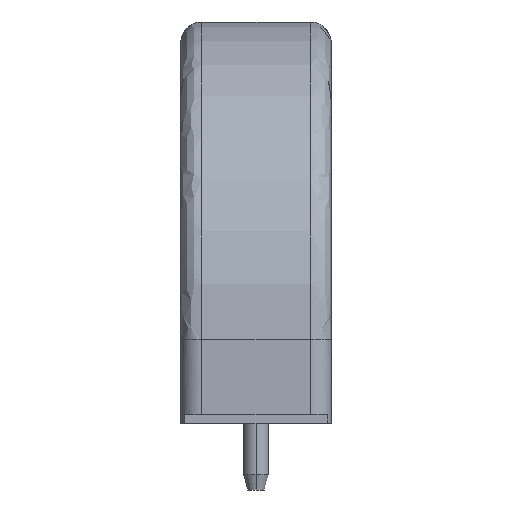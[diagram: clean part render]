
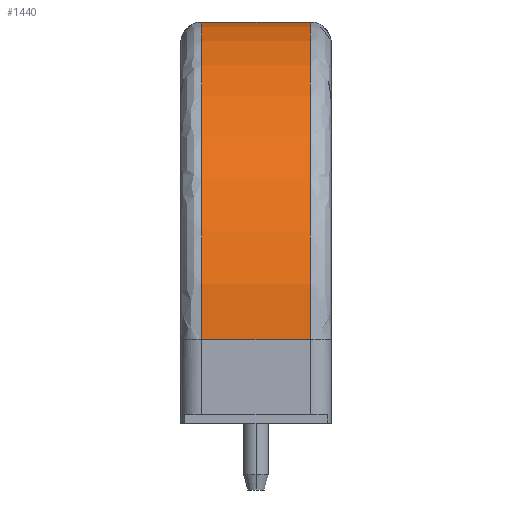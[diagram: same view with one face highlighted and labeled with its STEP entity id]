
A CAD part, front view. The second image highlights one B-rep face of the part: STEP entity #1440.
In plain terms, the highlighted cylindrical face has radius 38 mm (diameter 76 mm), a partial arc.
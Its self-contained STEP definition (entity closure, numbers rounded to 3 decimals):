
#16 = DIRECTION ( 'NONE',  ( 1., 0., 0. ) ) ;
#52 = LINE ( 'NONE', #624, #1077 ) ;
#77 = EDGE_CURVE ( 'NONE', #859, #1294, #713, .T. ) ;
#112 = CARTESIAN_POINT ( 'NONE',  ( -6.5, -55.5, 10. ) ) ;
#134 = ORIENTED_EDGE ( 'NONE', *, *, #194, .T. ) ;
#194 = EDGE_CURVE ( 'NONE', #859, #268, #1291, .T. ) ;
#242 = EDGE_CURVE ( 'NONE', #268, #1435, #372, .T. ) ;
#268 = VERTEX_POINT ( 'NONE', #1461 ) ;
#359 = FACE_OUTER_BOUND ( 'NONE', #462, .T. ) ;
#372 = CIRCLE ( 'NONE', #903, 38. ) ;
#409 = DIRECTION ( 'NONE',  ( -1., 0., 0. ) ) ;
#462 = EDGE_LOOP ( 'NONE', ( #861, #877, #134, #677 ) ) ;
#478 = CARTESIAN_POINT ( 'NONE',  ( 0., -93.5, 10. ) ) ;
#501 = DIRECTION ( 'NONE',  ( 1., 0., 0. ) ) ;
#528 = CARTESIAN_POINT ( 'NONE',  ( 6.5, -55.5, 10. ) ) ;
#617 = CARTESIAN_POINT ( 'NONE',  ( -6.5, -55.5, 48. ) ) ;
#624 = CARTESIAN_POINT ( 'NONE',  ( 0., -55.5, 48. ) ) ;
#638 = EDGE_CURVE ( 'NONE', #1294, #1435, #52, .T. ) ;
#677 = ORIENTED_EDGE ( 'NONE', *, *, #242, .T. ) ;
#696 = CYLINDRICAL_SURFACE ( 'NONE', #933, 38. ) ;
#710 = DIRECTION ( 'NONE',  ( 0., 0., -1. ) ) ;
#713 = CIRCLE ( 'NONE', #950, 38. ) ;
#741 = DIRECTION ( 'NONE',  ( 0., 0., 1. ) ) ;
#841 = VECTOR ( 'NONE', #1186, 1000. ) ;
#859 = VERTEX_POINT ( 'NONE', #1321 ) ;
#861 = ORIENTED_EDGE ( 'NONE', *, *, #638, .F. ) ;
#877 = ORIENTED_EDGE ( 'NONE', *, *, #77, .F. ) ;
#903 = AXIS2_PLACEMENT_3D ( 'NONE', #528, #409, #741 ) ;
#933 = AXIS2_PLACEMENT_3D ( 'NONE', #1049, #16, #1042 ) ;
#945 = CARTESIAN_POINT ( 'NONE',  ( 6.5, -55.5, 48. ) ) ;
#950 = AXIS2_PLACEMENT_3D ( 'NONE', #112, #1031, #710 ) ;
#1031 = DIRECTION ( 'NONE',  ( -1., 0., 0. ) ) ;
#1042 = DIRECTION ( 'NONE',  ( 0., 0., 1. ) ) ;
#1049 = CARTESIAN_POINT ( 'NONE',  ( 0., -55.5, 10. ) ) ;
#1077 = VECTOR ( 'NONE', #501, 1000. ) ;
#1186 = DIRECTION ( 'NONE',  ( 1., 0., 0. ) ) ;
#1291 = LINE ( 'NONE', #478, #841 ) ;
#1294 = VERTEX_POINT ( 'NONE', #617 ) ;
#1321 = CARTESIAN_POINT ( 'NONE',  ( -6.5, -93.5, 10. ) ) ;
#1435 = VERTEX_POINT ( 'NONE', #945 ) ;
#1440 = ADVANCED_FACE ( 'NONE', ( #359 ), #696, .T. ) ;
#1461 = CARTESIAN_POINT ( 'NONE',  ( 6.5, -93.5, 10. ) ) ;
